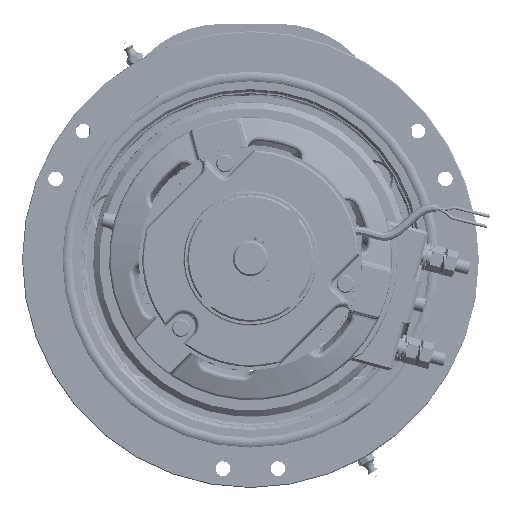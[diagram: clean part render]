
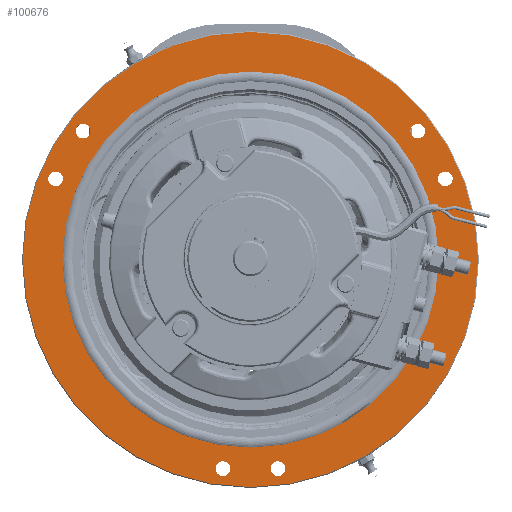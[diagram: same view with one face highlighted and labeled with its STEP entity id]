
A CAD part, top view. The second image highlights one B-rep face of the part: STEP entity #100676.
In plain terms, the highlighted planar face has unit normal (0, 0, 1).
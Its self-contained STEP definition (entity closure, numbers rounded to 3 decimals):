
#2427=FACE_BOUND('',#15323,.T.);
#2428=FACE_BOUND('',#15324,.T.);
#2429=FACE_BOUND('',#15325,.T.);
#2430=FACE_BOUND('',#15326,.T.);
#2431=FACE_BOUND('',#15327,.T.);
#2432=FACE_BOUND('',#15328,.T.);
#2433=FACE_BOUND('',#15329,.T.);
#4352=PLANE('',#109301);
#9322=FACE_OUTER_BOUND('',#15322,.T.);
#15322=EDGE_LOOP('',(#82111));
#15323=EDGE_LOOP('',(#82112));
#15324=EDGE_LOOP('',(#82113));
#15325=EDGE_LOOP('',(#82114));
#15326=EDGE_LOOP('',(#82115));
#15327=EDGE_LOOP('',(#82116));
#15328=EDGE_LOOP('',(#82117));
#15329=EDGE_LOOP('',(#82118));
#22472=CIRCLE('',#109295,129.5);
#22477=CIRCLE('',#109302,107.);
#22478=CIRCLE('',#109303,4.188);
#22479=CIRCLE('',#109304,4.188);
#22480=CIRCLE('',#109305,4.188);
#22481=CIRCLE('',#109306,4.188);
#22482=CIRCLE('',#109307,4.188);
#22483=CIRCLE('',#109308,4.188);
#44369=VERTEX_POINT('',#250194);
#44372=VERTEX_POINT('',#250207);
#44373=VERTEX_POINT('',#250209);
#44374=VERTEX_POINT('',#250211);
#44375=VERTEX_POINT('',#250213);
#44376=VERTEX_POINT('',#250215);
#44377=VERTEX_POINT('',#250217);
#44378=VERTEX_POINT('',#250219);
#57262=EDGE_CURVE('',#44369,#44369,#22472,.T.);
#57270=EDGE_CURVE('',#44372,#44372,#22477,.T.);
#57271=EDGE_CURVE('',#44373,#44373,#22478,.T.);
#57272=EDGE_CURVE('',#44374,#44374,#22479,.T.);
#57273=EDGE_CURVE('',#44375,#44375,#22480,.T.);
#57274=EDGE_CURVE('',#44376,#44376,#22481,.T.);
#57275=EDGE_CURVE('',#44377,#44377,#22482,.T.);
#57276=EDGE_CURVE('',#44378,#44378,#22483,.T.);
#82111=ORIENTED_EDGE('',*,*,#57262,.F.);
#82112=ORIENTED_EDGE('',*,*,#57270,.F.);
#82113=ORIENTED_EDGE('',*,*,#57271,.T.);
#82114=ORIENTED_EDGE('',*,*,#57272,.T.);
#82115=ORIENTED_EDGE('',*,*,#57273,.T.);
#82116=ORIENTED_EDGE('',*,*,#57274,.T.);
#82117=ORIENTED_EDGE('',*,*,#57275,.T.);
#82118=ORIENTED_EDGE('',*,*,#57276,.T.);
#100676=ADVANCED_FACE('',(#9322,#2427,#2428,#2429,#2430,#2431,#2432,#2433),
#4352,.T.);
#109295=AXIS2_PLACEMENT_3D('',#250195,#131138,#131139);
#109301=AXIS2_PLACEMENT_3D('',#250206,#131153,#131154);
#109302=AXIS2_PLACEMENT_3D('',#250208,#131155,#131156);
#109303=AXIS2_PLACEMENT_3D('',#250210,#131157,#131158);
#109304=AXIS2_PLACEMENT_3D('',#250212,#131159,#131160);
#109305=AXIS2_PLACEMENT_3D('',#250214,#131161,#131162);
#109306=AXIS2_PLACEMENT_3D('',#250216,#131163,#131164);
#109307=AXIS2_PLACEMENT_3D('',#250218,#131165,#131166);
#109308=AXIS2_PLACEMENT_3D('',#250220,#131167,#131168);
#131138=DIRECTION('center_axis',(0.,0.,
-1.));
#131139=DIRECTION('ref_axis',(-1.,0.,0.));
#131153=DIRECTION('center_axis',(0.,0.,
1.));
#131154=DIRECTION('ref_axis',(0.,1.,0.));
#131155=DIRECTION('center_axis',(0.,0.,
1.));
#131156=DIRECTION('ref_axis',(1.,0.,0.));
#131157=DIRECTION('center_axis',(0.,0.,
-1.));
#131158=DIRECTION('ref_axis',(0.,1.,0.));
#131159=DIRECTION('center_axis',(0.,0.,
-1.));
#131160=DIRECTION('ref_axis',(0.,1.,0.));
#131161=DIRECTION('center_axis',(0.,0.,
-1.));
#131162=DIRECTION('ref_axis',(-0.866,-0.5,0.));
#131163=DIRECTION('center_axis',(0.,0.,
-1.));
#131164=DIRECTION('ref_axis',(-0.866,-0.5,0.));
#131165=DIRECTION('center_axis',(0.,0.,
-1.));
#131166=DIRECTION('ref_axis',(0.866,-0.5,0.));
#131167=DIRECTION('center_axis',(0.,0.,
-1.));
#131168=DIRECTION('ref_axis',(0.866,-0.5,0.));
#250194=CARTESIAN_POINT('',(129.5,0.,25.));
#250195=CARTESIAN_POINT('Origin',(0.,0.,
25.));
#250206=CARTESIAN_POINT('Origin',(118.5,0.,25.));
#250207=CARTESIAN_POINT('',(-107.,0.,25.));
#250208=CARTESIAN_POINT('Origin',(0.,0.,
25.));
#250209=CARTESIAN_POINT('',(-15.663,-123.161,25.));
#250210=CARTESIAN_POINT('Origin',(-15.663,-118.973,25.));
#250211=CARTESIAN_POINT('',(15.663,-123.161,25.));
#250212=CARTESIAN_POINT('Origin',(15.663,-118.973,25.));
#250213=CARTESIAN_POINT('',(114.492,48.016,25.));
#250214=CARTESIAN_POINT('Origin',(110.866,45.922,25.));
#250215=CARTESIAN_POINT('',(98.829,75.145,25.));
#250216=CARTESIAN_POINT('Origin',(95.202,73.051,25.));
#250217=CARTESIAN_POINT('',(-98.829,75.145,25.));
#250218=CARTESIAN_POINT('Origin',(-95.202,73.051,25.));
#250219=CARTESIAN_POINT('',(-114.492,48.016,25.));
#250220=CARTESIAN_POINT('Origin',(-110.866,45.922,25.));
